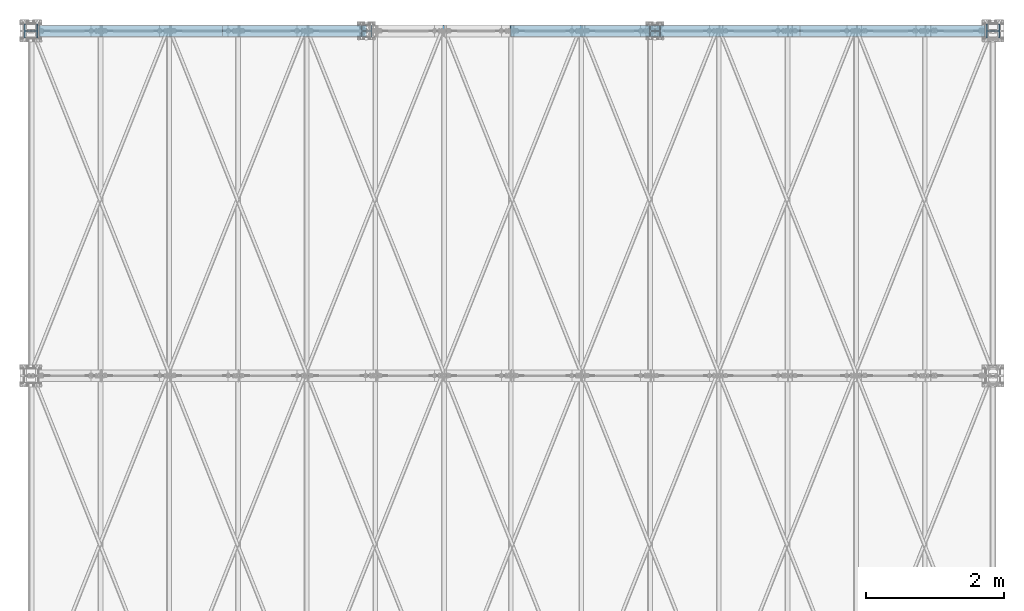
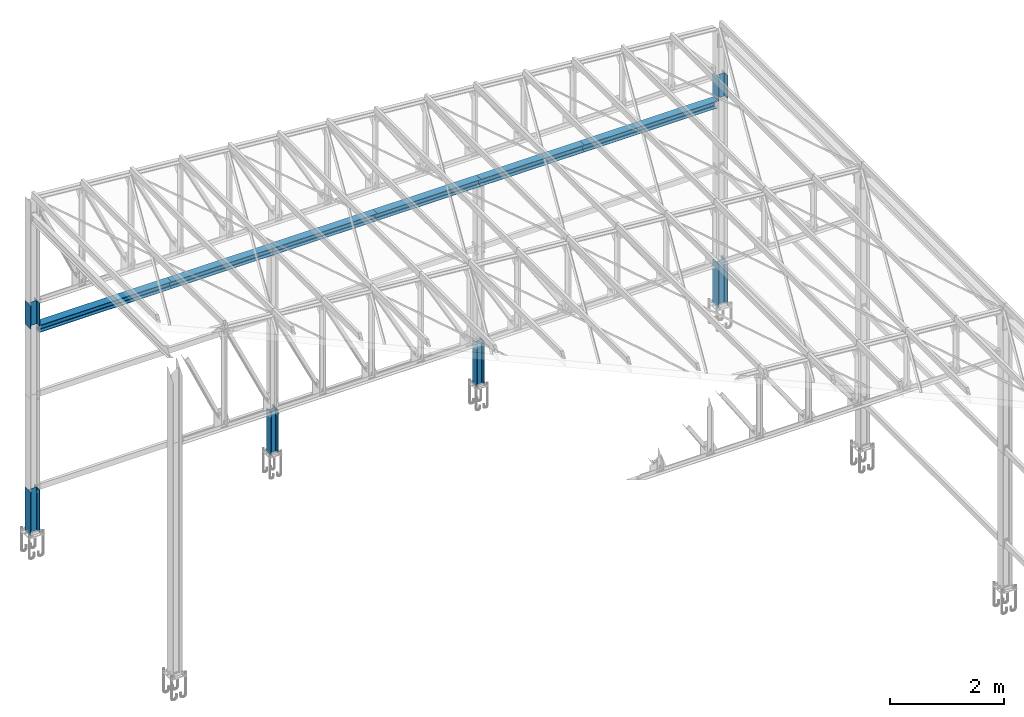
# One storey, part 3 of 251: 6 beams, 6 columns.
"""IFC4 building model written with IfcOpenShell, lengths in metres."""

import ifcopenshell
import ifcopenshell.guid

model = None  # the IFC model being written
_history = None  # IfcOwnerHistory: only IFC2X3 demands one
_inside = {}  # id of a spatial element -> (the spatial element, [elements in it])
_under = {}  # id of a project, library or spatial element -> (it, [spatial elements below it])
_declared = {}  # id of a project -> (the project, [libraries it declares])
_typed = {}  # id of a type object -> (the type object, [elements of that type])
_made_of = {}  # id of a material, layer set ... -> (it, [elements and type objects made of it])


def new_model(schema):
    """Start an empty IFC model of exactly this schema.

    Asked for "IFC4X3", IfcOpenShell would pick the latest addendum, in which some entities
    have other attributes; the version numbers below select the first issue.
    IFC2X3 requires an IfcOwnerHistory on every rooted entity: one is made here for all.
    """
    global model, _history
    if schema == "IFC4X3":
        model = ifcopenshell.file(schema_version=(4, 3, 0, 0))
    else:
        model = ifcopenshell.file(schema=schema)
    _inside.clear()
    _under.clear()
    _declared.clear()
    _typed.clear()
    _made_of.clear()
    _history = None
    if model.schema == "IFC2X3":
        org = make("IfcOrganization", Name="unknown")
        user = make(
            "IfcPersonAndOrganization",
            ThePerson=make("IfcPerson", FamilyName="unknown"),
            TheOrganization=org,
        )
        app = make(
            "IfcApplication",
            ApplicationDeveloper=org,
            Version="unknown",
            ApplicationFullName="unknown",
            ApplicationIdentifier="unknown",
        )
        _history = make(
            "IfcOwnerHistory",
            OwningUser=user,
            OwningApplication=app,
            ChangeAction="ADDED",
            CreationDate=0,
        )
    return model


def make(cls, **values):
    """One entity of the class cls with the attributes given. An attribute that is None is left unset."""
    return model.create_entity(
        cls, **{name: value for name, value in values.items() if value is not None}
    )


def rooted(cls, **values):
    """An entity with a GlobalId (a new one), such as an element, a storey or a relation."""
    return make(cls, GlobalId=ifcopenshell.guid.new(), OwnerHistory=_history, **values)


def si_unit(unit_type, name, prefix=None):
    """IfcSIUnit, for example si_unit("LENGTHUNIT", "METRE", prefix="MILLI")."""
    return make("IfcSIUnit", UnitType=unit_type, Prefix=prefix, Name=name)


def assignment(units):
    """IfcUnitAssignment: the units of a project."""
    return None if units is None else make("IfcUnitAssignment", Units=units)


def point(xyz):
    """IfcCartesianPoint."""
    return None if xyz is None else make("IfcCartesianPoint", Coordinates=xyz)


def direction(xyz):
    """IfcDirection."""
    return None if xyz is None else make("IfcDirection", DirectionRatios=xyz)


def frame(location, z_axis=None, x_axis=None):
    """IfcAxis2Placement3D, a coordinate frame: its origin and axes. An axis left out is left unset."""
    return make(
        "IfcAxis2Placement3D",
        Location=point(location),
        Axis=direction(z_axis),
        RefDirection=direction(x_axis),
    )


def frame_2d(location, x_axis=None):
    """IfcAxis2Placement2D, a coordinate frame in the plane: its origin and x axis."""
    return make(
        "IfcAxis2Placement2D", Location=point(location), RefDirection=direction(x_axis)
    )


def origin_with_axes():
    """The frame at (0, 0, 0) with the z axis (0, 0, 1) and the x axis (1, 0, 0) written out."""
    return frame((0.0, 0.0, 0.0), z_axis=(0.0, 0.0, 1.0), x_axis=(1.0, 0.0, 0.0))


def origin_2d_with_axis():
    """The frame at (0, 0) in the plane with the x axis (1, 0) written out."""
    return frame_2d((0.0, 0.0), x_axis=(1.0, 0.0))


def place(relative_to, where):
    """IfcLocalPlacement: puts the frame where relative to a parent placement (None: the world)."""
    return make(
        "IfcLocalPlacement", PlacementRelTo=relative_to, RelativePlacement=where
    )


def context(
    kind, dimensions, precision=None, world=None, true_north=None, identifier=None
):
    """IfcGeometricRepresentationContext, for example the 3D "Model" context."""
    return make(
        "IfcGeometricRepresentationContext",
        ContextIdentifier=identifier,
        ContextType=kind,
        CoordinateSpaceDimension=dimensions,
        Precision=precision,
        WorldCoordinateSystem=world,
        TrueNorth=true_north,
    )


def project(units=None, contexts=None):
    """IfcProject with its units and contexts."""
    return rooted(
        "IfcProject",
        Name="project",
        RepresentationContexts=contexts,
        UnitsInContext=assignment(units),
    )


def spatial(cls, under=None, at=None, **own):
    """A site, building, storey or space (cls), placed at a placement, below another one or the project."""
    s = rooted(cls, ObjectPlacement=at, **own)
    if under is not None:
        _under.setdefault(under.id(), (under, []))[1].append(s)
    return s


def profile(cls, at=None, kind="AREA", **sizes):
    """A parametric profile (cls). Its sizes go by their IFC names, for example OverallWidth=200.0."""
    return make(cls, ProfileType=kind, Position=at, **sizes)


def i_section(**sizes):
    """IfcIShapeProfileDef."""
    return profile("IfcIShapeProfileDef", **sizes)


def extrude(swept, where, along, depth):
    """IfcExtrudedAreaSolid: the profile swept, set in the frame where, extruded along a direction by depth."""
    return make(
        "IfcExtrudedAreaSolid",
        SweptArea=swept,
        Position=where,
        ExtrudedDirection=direction(along),
        Depth=depth,
    )


def clip(a, b, op="DIFFERENCE"):
    """IfcBooleanClippingResult: the solid a cut by the half space b."""
    return make(
        "IfcBooleanClippingResult", Operator=op, FirstOperand=a, SecondOperand=b
    )


def halfspace(plane, agree):
    """IfcHalfSpaceSolid: all space on one side of the plane z = 0 of the frame plane."""
    return make(
        "IfcHalfSpaceSolid",
        BaseSurface=make("IfcPlane", Position=plane),
        AgreementFlag=agree,
    )


def shape(context_of_items, identifier, shape_type, items):
    """IfcShapeRepresentation: the items that make up one representation, for example the "Body"."""
    return make(
        "IfcShapeRepresentation",
        ContextOfItems=context_of_items,
        RepresentationIdentifier=identifier,
        RepresentationType=shape_type,
        Items=items,
    )


def material(Name=None, Category=None):
    """IfcMaterial."""
    return make("IfcMaterial", Name=Name, Category=Category)


def material_profile(
    of_material, cross_section, Name=None, Category=None, Priority=None
):
    """IfcMaterialProfile: a cross section and its material."""
    return make(
        "IfcMaterialProfile",
        Name=Name,
        Material=of_material,
        Profile=cross_section,
        Priority=Priority,
        Category=Category,
    )


def profile_set(profiles, Name=None, composite=None):
    """IfcMaterialProfileSet."""
    return make(
        "IfcMaterialProfileSet",
        Name=Name,
        MaterialProfiles=profiles,
        CompositeProfile=composite,
    )


def profile_usage(for_profile_set, cardinal=None, extent=None):
    """IfcMaterialProfileSetUsage: how a profile set lies along its element."""
    return make(
        "IfcMaterialProfileSetUsage",
        ForProfileSet=for_profile_set,
        CardinalPoint=cardinal,
        ReferenceExtent=extent,
    )


def made_of(thing, what):
    """Note that an element or type object is made of a material, layer set ...; save() writes the relation."""
    if what is not None:
        _made_of.setdefault(what.id(), (what, []))[1].append(thing)
    return thing


def type_object(cls, material=None, **own):
    """A type object (cls), such as IfcWallType, which elements share."""
    return made_of(rooted(cls, **own), material)


def element(
    cls,
    number,
    at=None,
    inside=None,
    cuts=None,
    type_object=None,
    material=None,
    context=None,
    identifier="Body",
    shape_type=None,
    held_by="IfcProductDefinitionShape",
    body=None,
    shapes=None,
    **own,
):
    """One element of the class cls, such as IfcWall. Its Tag is "e" and its number.

    at: its placement. inside: the storey or other place that contains it. cuts: it is an
    opening in that element (IfcRelVoidsElement). A single representation is given by context,
    identifier, shape_type and body (its items); several are given by shapes. held_by: the class
    of the entity that holds the representations. save() writes the other relations.
    """
    e = rooted(cls, Tag="e%d" % number, ObjectPlacement=at, **own)
    if body is not None:
        shapes = [shape(context, identifier, shape_type, body)]
    if shapes is not None:
        e.Representation = make(held_by, Representations=shapes)
    if inside is not None:
        _inside.setdefault(inside.id(), (inside, []))[1].append(e)
    if cuts is not None:
        rooted(
            "IfcRelVoidsElement", RelatingBuildingElement=cuts, RelatedOpeningElement=e
        )
    if type_object is not None:
        _typed.setdefault(type_object.id(), (type_object, []))[1].append(e)
    return made_of(e, material)


def aggregate(whole, parts):
    """IfcRelAggregates: a whole, such as a stair, and the parts it consists of."""
    return rooted("IfcRelAggregates", RelatingObject=whole, RelatedObjects=parts)


def save(model, path):
    """Write the relations noted so far, then the file.

    IfcRelAggregates (storeys below a building ...), IfcRelContainedInSpatialStructure (elements
    in a storey), IfcRelDefinesByType, IfcRelAssociatesMaterial and IfcRelDeclares: one each for
    every whole, place, type object, material and project.
    """
    for whole, parts in _under.values():
        aggregate(whole, parts)
    for where, things in _inside.values():
        rooted(
            "IfcRelContainedInSpatialStructure",
            RelatedElements=things,
            RelatingStructure=where,
        )
    for kind, things in _typed.values():
        rooted("IfcRelDefinesByType", RelatedObjects=things, RelatingType=kind)
    for what, things in _made_of.values():
        rooted("IfcRelAssociatesMaterial", RelatedObjects=things, RelatingMaterial=what)
    for by, libraries in _declared.values():
        rooted("IfcRelDeclares", RelatingContext=by, RelatedDefinitions=libraries)
    model.write(path)


model = new_model("IFC4")

# Units and contexts
model_context = context("Model", 3, precision=1e-05, world=origin_with_axes())
ifc_project = project(units=[si_unit("LENGTHUNIT", "METRE"), si_unit("AREAUNIT", "SQUARE_METRE"), si_unit("VOLUMEUNIT", "CUBIC_METRE"), si_unit("MASSUNIT", "GRAM", prefix="KILO"), si_unit("TIMEUNIT", "SECOND"), si_unit("PLANEANGLEUNIT", "RADIAN"), si_unit("SOLIDANGLEUNIT", "STERADIAN"), si_unit("THERMODYNAMICTEMPERATUREUNIT", "DEGREE_CELSIUS")], contexts=[model_context])

# Site, building, storey
placement_1 = place(None, origin_with_axes())
site = spatial("IfcSite", under=ifc_project, at=placement_1, Name="Italia", CompositionType="ELEMENT")
building = spatial("IfcBuilding", under=site, at=placement_1, Name="Deposito", CompositionType="ELEMENT")
storey = spatial("IfcBuildingStorey", under=building, at=placement_1, Name="Storey 0", CompositionType="ELEMENT", Elevation=0.0)

# Columns
ifc_material = material(Name="Acciaio", Category="Acciaio")
ifc_material_profile = material_profile(ifc_material, i_section(OverallWidth=0.2, OverallDepth=0.19, WebThickness=0.006, FlangeThickness=0.01, FilletRadius=0.018, at=origin_2d_with_axis()), Name="7 PILASTRO HEA200")
ifc_profile_set = profile_set([ifc_material_profile])
ifc_profile_usage_1 = profile_usage(ifc_profile_set, cardinal=5)
column_type_1 = type_object("IfcColumnType", Name="7 PILASTRO HEA200", PredefinedType="COLUMN", material=ifc_profile_usage_1)
placement_2 = place(placement_1, origin_with_axes())
column_1_placement = place(placement_2, frame((20.0, 19.999998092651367, -0.5), z_axis=(0.0, 0.0, 1.0), x_axis=(1.0, 0.0, 0.0)))
element("IfcColumn", 1, at=column_1_placement, inside=storey, type_object=column_type_1, Name="79", context=model_context, shape_type="Clipping", body=[
    clip(extrude(i_section(OverallWidth=0.2, OverallDepth=0.19, WebThickness=0.006, FlangeThickness=0.01, FilletRadius=0.018, at=origin_2d_with_axis()), frame((0.0, 0.0, 0.0), z_axis=(0.0, 0.0, 1.0), x_axis=(0.0, 1.0, 0.0)), (0.0, 0.0, 1.0), 1.5), halfspace(frame((0.0, 0.0, 0.575), z_axis=(0.0, 0.0, -1.0), x_axis=(1.0, 0.0, 0.0)), False)),
])
ifc_profile_usage_2 = profile_usage(ifc_profile_set, cardinal=5)
column_type_2 = type_object("IfcColumnType", Name="7 PILASTRO HEA200", PredefinedType="COLUMN", material=ifc_profile_usage_2)
column_2_placement = place(placement_2, frame((6.050000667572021, 19.999998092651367, -0.5), z_axis=(0.0, 0.0, 1.0), x_axis=(1.0, 0.0, 0.0)))
element("IfcColumn", 2, at=column_2_placement, inside=storey, type_object=column_type_2, Name="63", context=model_context, shape_type="Clipping", body=[
    clip(extrude(i_section(OverallWidth=0.2, OverallDepth=0.19, WebThickness=0.006, FlangeThickness=0.01, FilletRadius=0.018, at=origin_2d_with_axis()), frame((0.0, 0.0, 0.0), z_axis=(0.0, 0.0, 1.0), x_axis=(0.0, 1.0, 0.0)), (0.0, 0.0, 1.0), 1.5), halfspace(frame((-9.53674e-07, 0.0, 0.575), z_axis=(0.0, 0.0, -1.0), x_axis=(1.0, 0.0, 0.0)), False)),
])
ifc_profile_usage_3 = profile_usage(ifc_profile_set, cardinal=5)
column_type_3 = type_object("IfcColumnType", Name="7 PILASTRO HEA200", PredefinedType="COLUMN", material=ifc_profile_usage_3)
column_3_placement = place(placement_2, origin_with_axes())
element("IfcColumn", 3, at=column_3_placement, inside=storey, type_object=column_type_3, Name="79", context=model_context, shape_type="SweptSolid", body=[
    extrude(i_section(OverallWidth=0.2, OverallDepth=0.19, WebThickness=0.006, FlangeThickness=0.01, FilletRadius=0.018, at=origin_2d_with_axis()), frame((20.0, 20.0, 4.5), z_axis=(0.0, 0.0, 1.0), x_axis=(0.0, 1.0, 0.0)), (0.0, 0.0, 1.0), 0.5),
])
ifc_profile_usage_4 = profile_usage(ifc_profile_set, cardinal=5)
column_type_4 = type_object("IfcColumnType", Name="7 PILASTRO HEA200", PredefinedType="COLUMN", material=ifc_profile_usage_4)
column_4_placement = place(placement_2, origin_with_axes())
element("IfcColumn", 4, at=column_4_placement, inside=storey, type_object=column_type_4, Name="63", context=model_context, shape_type="SweptSolid", body=[
    extrude(i_section(OverallWidth=0.2, OverallDepth=0.19, WebThickness=0.006, FlangeThickness=0.01, FilletRadius=0.018, at=origin_2d_with_axis()), frame((6.05, 20.0, 4.5), z_axis=(0.0, 0.0, 1.0), x_axis=(0.0, 1.0, 0.0)), (0.0, 0.0, 1.0), 0.5),
])
ifc_profile_usage_5 = profile_usage(ifc_profile_set, cardinal=5)
column_type_5 = type_object("IfcColumnType", Name="4 PILASTRO HEA160", PredefinedType="COLUMN", material=ifc_profile_usage_5)
column_5_placement = place(placement_2, frame((10.915000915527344, 19.999998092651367, -0.5), z_axis=(0.0, 0.0, 1.0), x_axis=(1.0, 0.0, 0.0)))
element("IfcColumn", 5, at=column_5_placement, inside=storey, type_object=column_type_5, Name="68", context=model_context, shape_type="Clipping", body=[
    clip(extrude(i_section(OverallWidth=0.16, OverallDepth=0.152, WebThickness=0.006, FlangeThickness=0.009, FilletRadius=0.015, at=origin_2d_with_axis()), frame((0.0, 0.0, 0.0), z_axis=(0.0, 0.0, 1.0), x_axis=(0.0, 1.0, 0.0)), (0.0, 0.0, 1.0), 1.5), halfspace(frame((-9.53674e-07, 0.0, 0.57), z_axis=(0.0, 0.0, -1.0), x_axis=(1.0, 0.0, 0.0)), False)),
])
ifc_profile_usage_6 = profile_usage(ifc_profile_set, cardinal=5)
column_type_6 = type_object("IfcColumnType", Name="4 PILASTRO HEA160", PredefinedType="COLUMN", material=ifc_profile_usage_6)
column_6_placement = place(placement_2, frame((15.10000228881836, 19.999998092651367, -0.5), z_axis=(0.0, 0.0, 1.0), x_axis=(1.0, 0.0, 0.0)))
element("IfcColumn", 6, at=column_6_placement, inside=storey, type_object=column_type_6, Name="74", context=model_context, shape_type="Clipping", body=[
    clip(extrude(i_section(OverallWidth=0.16, OverallDepth=0.152, WebThickness=0.006, FlangeThickness=0.009, FilletRadius=0.015, at=origin_2d_with_axis()), frame((0.0, 0.0, 0.0), z_axis=(0.0, 0.0, 1.0), x_axis=(0.0, 1.0, 0.0)), (0.0, 0.0, 1.0), 1.5), halfspace(frame((0.0, 0.0, 0.57), z_axis=(0.0, 0.0, -1.0), x_axis=(1.0, 0.0, 0.0)), False)),
])

# Beams
ifc_profile_usage_7 = profile_usage(ifc_profile_set, cardinal=2)
beam_type_1 = type_object("IfcBeamType", Name="12 HEA160", PredefinedType="BEAM", material=ifc_profile_usage_7)
beam_1_placement = place(placement_2, frame((17.19999885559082, 19.999998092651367, 4.424000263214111), z_axis=(0.0, 0.0, 1.0), x_axis=(1.0, 0.0, 0.0)))
element("IfcBeam", 7, at=beam_1_placement, inside=storey, type_object=beam_type_1, Name="70005", context=model_context, shape_type="Clipping", body=[
    clip(extrude(i_section(OverallWidth=0.16, OverallDepth=0.152, WebThickness=0.006, FlangeThickness=0.009, FilletRadius=0.015, at=origin_2d_with_axis()), frame((0.0, 0.0, 0.0), z_axis=(1.0, 0.0, 0.0), x_axis=(0.0, 1.0, 0.0)), (0.0, 0.0, 1.0), 4.2), halfspace(frame((2.685, 3.8147e-06, 0.0), z_axis=(-1.0, 0.0, 0.0), x_axis=(0.0, -1.0, 0.0)), True)),
])
ifc_profile_usage_8 = profile_usage(ifc_profile_set, cardinal=2)
beam_type_2 = type_object("IfcBeamType", Name="12 HEA160", PredefinedType="BEAM", material=ifc_profile_usage_8)
beam_2_placement = place(placement_2, origin_with_axes())
element("IfcBeam", 8, at=beam_2_placement, inside=storey, type_object=beam_type_2, Name="70005", context=model_context, shape_type="SweptSolid", body=[
    extrude(i_section(OverallWidth=0.16, OverallDepth=0.152, WebThickness=0.006, FlangeThickness=0.009, FilletRadius=0.015, at=origin_2d_with_axis()), frame((15.1, 20.0, 4.424), z_axis=(1.0, 0.0, 0.0), x_axis=(0.0, 1.0, 0.0)), (0.0, 0.0, 1.0), 2.1),
])
ifc_profile_usage_9 = profile_usage(ifc_profile_set, cardinal=2)
beam_type_3 = type_object("IfcBeamType", Name="12 HEA160", PredefinedType="BEAM", material=ifc_profile_usage_9)
beam_3_placement = place(placement_2, origin_with_axes())
element("IfcBeam", 9, at=beam_3_placement, inside=storey, type_object=beam_type_3, Name="70005", context=model_context, shape_type="SweptSolid", body=[
    extrude(i_section(OverallWidth=0.16, OverallDepth=0.152, WebThickness=0.006, FlangeThickness=0.009, FilletRadius=0.015, at=origin_2d_with_axis()), frame((13.0, 20.0, 4.424), z_axis=(1.0, 0.0, 0.0), x_axis=(0.0, 1.0, 0.0)), (0.0, 0.0, 1.0), 2.1),
])
ifc_profile_usage_10 = profile_usage(ifc_profile_set, cardinal=2)
beam_type_4 = type_object("IfcBeamType", Name="12 HEA160", PredefinedType="BEAM", material=ifc_profile_usage_10)
beam_4_placement = place(placement_2, origin_with_axes())
element("IfcBeam", 10, at=beam_4_placement, inside=storey, type_object=beam_type_4, Name="70005", context=model_context, shape_type="SweptSolid", body=[
    extrude(i_section(OverallWidth=0.16, OverallDepth=0.152, WebThickness=0.006, FlangeThickness=0.009, FilletRadius=0.015, at=origin_2d_with_axis()), frame((10.915, 20.0, 4.424), z_axis=(1.0, 0.0, 0.0), x_axis=(0.0, 1.0, 0.0)), (0.0, 0.0, 1.0), 2.085),
])
ifc_profile_usage_11 = profile_usage(ifc_profile_set, cardinal=2)
beam_type_5 = type_object("IfcBeamType", Name="12 HEA160", PredefinedType="BEAM", material=ifc_profile_usage_11)
beam_5_placement = place(placement_2, origin_with_axes())
element("IfcBeam", 11, at=beam_5_placement, inside=storey, type_object=beam_type_5, Name="70005", context=model_context, shape_type="SweptSolid", body=[
    extrude(i_section(OverallWidth=0.16, OverallDepth=0.152, WebThickness=0.006, FlangeThickness=0.009, FilletRadius=0.015, at=origin_2d_with_axis()), frame((8.83, 20.0, 4.424), z_axis=(1.0, 0.0, 0.0), x_axis=(0.0, 1.0, 0.0)), (0.0, 0.0, 1.0), 2.085),
])
ifc_profile_usage_12 = profile_usage(ifc_profile_set, cardinal=2)
beam_type_6 = type_object("IfcBeamType", Name="12 HEA160", PredefinedType="BEAM", material=ifc_profile_usage_12)
beam_6_placement = place(placement_2, frame((4.660000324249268, 19.999998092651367, 4.424000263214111), z_axis=(0.0, 0.0, 1.0), x_axis=(1.0, 0.0, 0.0)))
element("IfcBeam", 12, at=beam_6_placement, inside=storey, type_object=beam_type_6, Name="70005", context=model_context, shape_type="Clipping", body=[
    clip(extrude(i_section(OverallWidth=0.16, OverallDepth=0.152, WebThickness=0.006, FlangeThickness=0.009, FilletRadius=0.015, at=origin_2d_with_axis()), frame((0.0, 0.0, 0.0), z_axis=(1.0, 0.0, 0.0), x_axis=(0.0, 1.0, 0.0)), (0.0, 0.0, 1.0), 4.17), halfspace(frame((1.505, 0.0, 0.0), z_axis=(-1.0, 0.0, 0.0), x_axis=(0.0, -1.0, 0.0)), False)),
])

save(model, "model.ifc")
